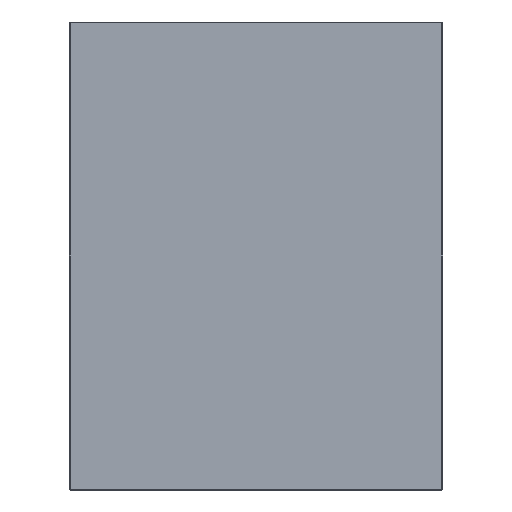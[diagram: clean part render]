
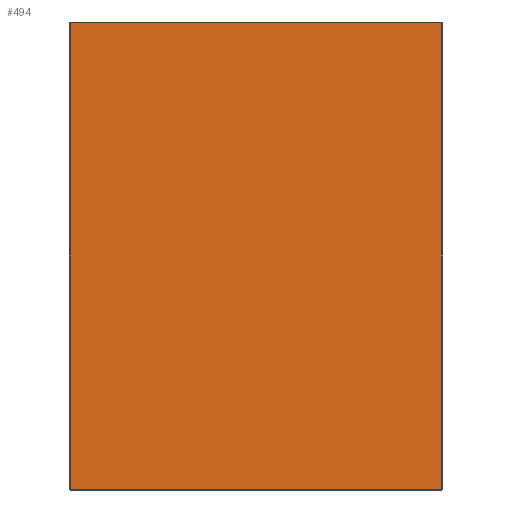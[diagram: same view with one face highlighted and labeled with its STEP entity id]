
A CAD part, front view. The second image highlights one B-rep face of the part: STEP entity #494.
In plain terms, the highlighted planar face has unit normal (0, -1, 0).
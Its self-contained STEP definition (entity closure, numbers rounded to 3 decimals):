
#4 = EDGE_CURVE ( 'NONE', #117, #441, #346, .T. ) ;
#11 = VECTOR ( 'NONE', #581, 1000. ) ;
#63 = VECTOR ( 'NONE', #326, 1000. ) ;
#66 = CARTESIAN_POINT ( 'NONE',  ( -197., 0., 247. ) ) ;
#82 = CARTESIAN_POINT ( 'NONE',  ( 197., 0., 0. ) ) ;
#117 = VERTEX_POINT ( 'NONE', #132 ) ;
#132 = CARTESIAN_POINT ( 'NONE',  ( 197., 0., 247. ) ) ;
#155 = LINE ( 'NONE', #481, #11 ) ;
#158 = EDGE_CURVE ( 'NONE', #354, #117, #391, .T. ) ;
#175 = DIRECTION ( 'NONE',  ( 0., 0., 1. ) ) ;
#177 = CARTESIAN_POINT ( 'NONE',  ( -197., 0., -247. ) ) ;
#195 = VECTOR ( 'NONE', #396, 1000. ) ;
#206 = EDGE_CURVE ( 'NONE', #259, #354, #155, .T. ) ;
#211 = ORIENTED_EDGE ( 'NONE', *, *, #4, .T. ) ;
#242 = EDGE_CURVE ( 'NONE', #441, #259, #371, .T. ) ;
#248 = CARTESIAN_POINT ( 'NONE',  ( 0., 0., 247. ) ) ;
#259 = VERTEX_POINT ( 'NONE', #177 ) ;
#260 = ORIENTED_EDGE ( 'NONE', *, *, #158, .T. ) ;
#284 = CARTESIAN_POINT ( 'NONE',  ( 0., 0., 0. ) ) ;
#287 = PLANE ( 'NONE',  #342 ) ;
#326 = DIRECTION ( 'NONE',  ( 0., 0., 1. ) ) ;
#342 = AXIS2_PLACEMENT_3D ( 'NONE', #284, #547, #175 ) ;
#346 = LINE ( 'NONE', #248, #353 ) ;
#347 = DIRECTION ( 'NONE',  ( -1., 0., 0. ) ) ;
#353 = VECTOR ( 'NONE', #347, 1000. ) ;
#354 = VERTEX_POINT ( 'NONE', #646 ) ;
#371 = LINE ( 'NONE', #497, #195 ) ;
#391 = LINE ( 'NONE', #82, #63 ) ;
#396 = DIRECTION ( 'NONE',  ( 0., 0., -1. ) ) ;
#408 = EDGE_LOOP ( 'NONE', ( #260, #211, #436, #454 ) ) ;
#436 = ORIENTED_EDGE ( 'NONE', *, *, #242, .T. ) ;
#441 = VERTEX_POINT ( 'NONE', #66 ) ;
#454 = ORIENTED_EDGE ( 'NONE', *, *, #206, .T. ) ;
#481 = CARTESIAN_POINT ( 'NONE',  ( 0., 0., -247. ) ) ;
#494 = ADVANCED_FACE ( 'NONE', ( #604 ), #287, .F. ) ;
#497 = CARTESIAN_POINT ( 'NONE',  ( -197., 0., 0. ) ) ;
#547 = DIRECTION ( 'NONE',  ( 0., 1., 0. ) ) ;
#581 = DIRECTION ( 'NONE',  ( 1., 0., 0. ) ) ;
#604 = FACE_OUTER_BOUND ( 'NONE', #408, .T. ) ;
#646 = CARTESIAN_POINT ( 'NONE',  ( 197., 0., -247. ) ) ;
